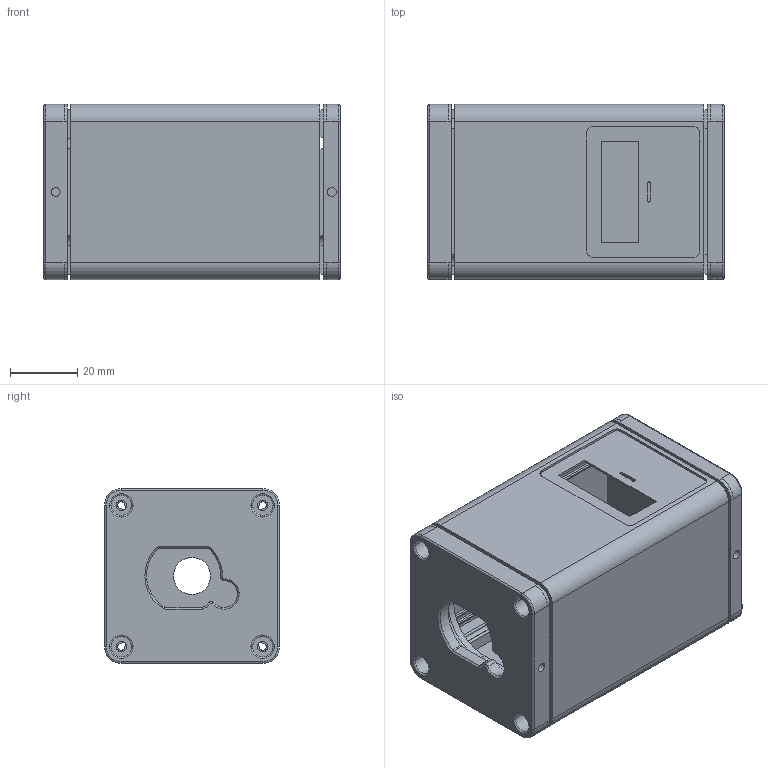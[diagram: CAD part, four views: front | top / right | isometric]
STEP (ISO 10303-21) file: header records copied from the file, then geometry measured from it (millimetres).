
FILE_DESCRIPTION(/* description */ (''),/* implementation_level */ '2;1');
FILE_NAME(/* name */ 'SDB',/* time_stamp */ '2024-12-04T13:40:35+08:00',/* author */ (''),/* organization */ (''),/* preprocessor_version */ 'ST-DEVELOPER v19.2',/* originating_system */ 'Rhino 8.5',/* authorisation */ '');
FILE_SCHEMA (('CONFIG_CONTROL_DESIGN'));
Length unit declared in the file: millimetre
Products named in the file (1): Document
Bounding box: 88 x 52 x 52 mm (x, y, z)
Volume: 56596.2 mm3; surface area: 46521.5 mm2
Topology: 3 solids, 3 shells, 316 faces, 811 edges, 525 vertices
Faces by surface type: cylinder 145, plane 137, bspline 34
Entity records: 10167 total; most frequent: CARTESIAN_POINT 3320, ORIENTED_EDGE 1618, DIRECTION 936, EDGE_CURVE 809, AXIS2_PLACEMENT_3D 609, VERTEX_POINT 522, EDGE_LOOP 365, TRIMMED_CURVE 324
